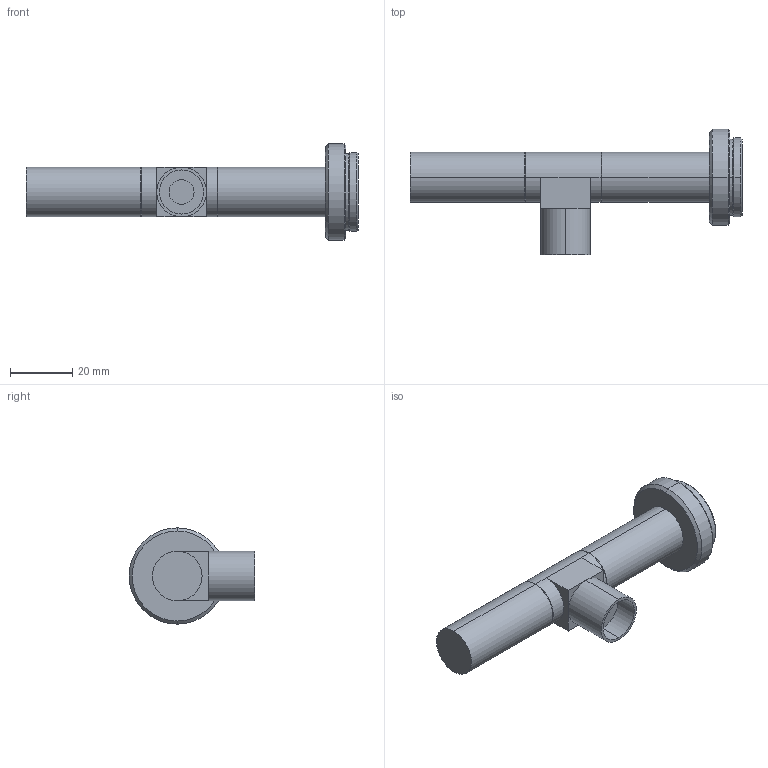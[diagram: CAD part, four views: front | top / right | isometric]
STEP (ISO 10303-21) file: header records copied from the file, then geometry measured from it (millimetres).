
FILE_DESCRIPTION (( 'STEP AP203' ), '1' );
FILE_NAME ('VS-TC3-110CO.STEP', '2016-07-25T00:20:33', ( 'miura_vst' ), ( '' ), 'SwSTEP 2.0', 'SolidWorks 2016', '' );
FILE_SCHEMA (( 'CONFIG_CONTROL_DESIGN' ));
Length unit declared in the file: millimetre
Products named in the file (1): VS-TC3-110CO
Bounding box: 106.9 x 40.5 x 31 mm (x, y, z)
Volume: 28613.2 mm3; surface area: 8820.8 mm2
Topology: 1 solids, 1 shells, 50 faces, 100 edges, 56 vertices
Faces by surface type: cylinder 19, cone 16, plane 15
Entity records: 1355 total; most frequent: DIRECTION 252, CARTESIAN_POINT 207, ORIENTED_EDGE 200, AXIS2_PLACEMENT_3D 101, EDGE_CURVE 100, VERTEX_POINT 56, EDGE_LOOP 54, ADVANCED_FACE 50
